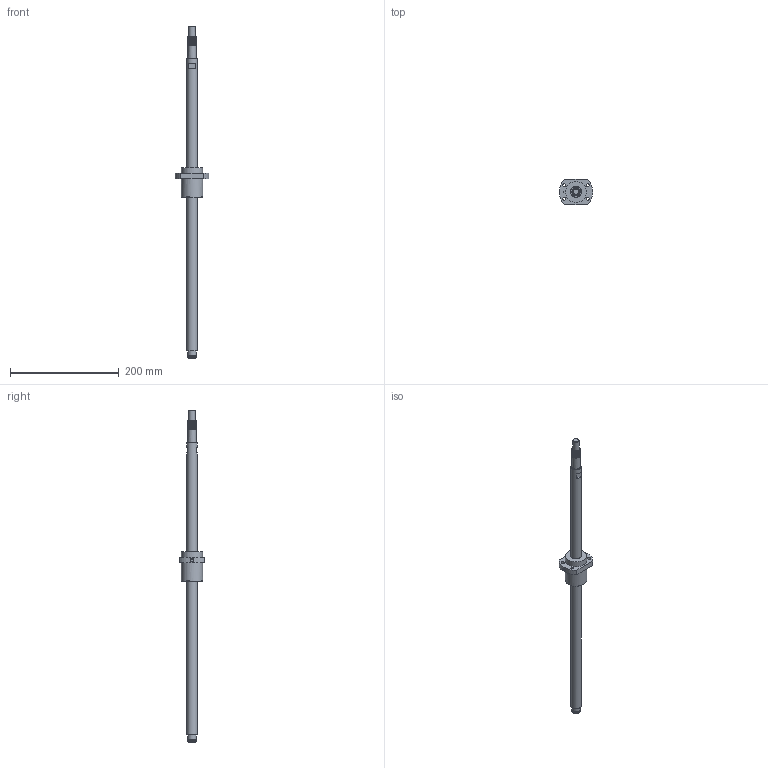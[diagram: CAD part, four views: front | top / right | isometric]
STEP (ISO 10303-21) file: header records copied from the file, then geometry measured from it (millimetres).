
FILE_DESCRIPTION(/* description */ (''),/* implementation_level */ '2;1');
FILE_NAME(/* name */ 'BSG248_asm1.stp',/* time_stamp */ '2017-01-14T09:11:03+08:00',/* author */ (''),/* organization */ (''),/* preprocessor_version */ 'ST-DEVELOPER v15',/* originating_system */ 'SIEMENS PLM Software NX 8.5',/* authorisation */ '');
FILE_SCHEMA (('AUTOMOTIVE_DESIGN { 1 0 10303 214 3 1 1 1 }'));
Length unit declared in the file: millimetre
Products named in the file (3): 01; BSG248; BSG248_asm1
Assembly tree (2 placements, depth 2):
  BSG248_asm1
    BSG248
    01
Bounding box: 62 x 46 x 610 mm (x, y, z)
Volume: 60188.9 mm3; surface area: 54636.6 mm2
Topology: 1 solids, 2 shells, 82 faces, 215 edges, 146 vertices
Faces by surface type: plane 41, cylinder 37, bspline 2, cone 2
Full cylindrical faces by diameter (mm): 4.5 x4, 5 x1, 5.5 x4, 6 x1, 12 x1, 14.3 x1, 15 x17, 20 x2, 39 x2
Entity records: 5011 total; most frequent: CARTESIAN_POINT 3444, DIRECTION 318, ORIENTED_EDGE 268, EDGE_CURVE 134, AXIS2_PLACEMENT_3D 129, EDGE_LOOP 110, VERTEX_POINT 100, FACE_BOUND 73
